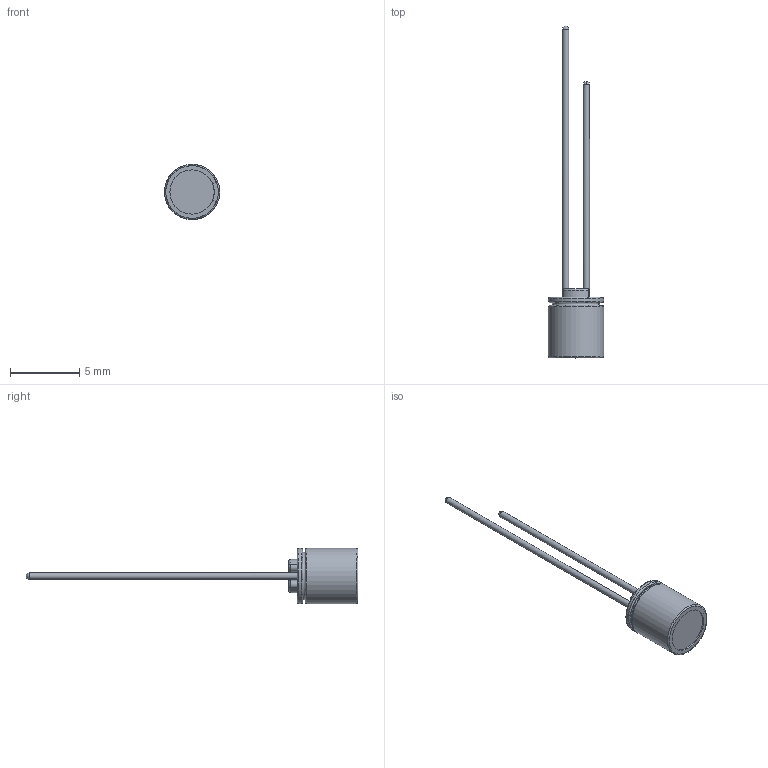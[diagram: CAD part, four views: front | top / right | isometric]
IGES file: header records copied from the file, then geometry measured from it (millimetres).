
Start section: JAMA-IS VERSION  1.0
Bounding box: 3.99 x 24 x 4 mm (x, y, z)
Surface area: 265.5 mm2 (no closed solid volume)
Topology: 0 solids, 0 shells, 72 faces, 1335 edges, 1324 vertices
Faces by surface type: bspline 72
